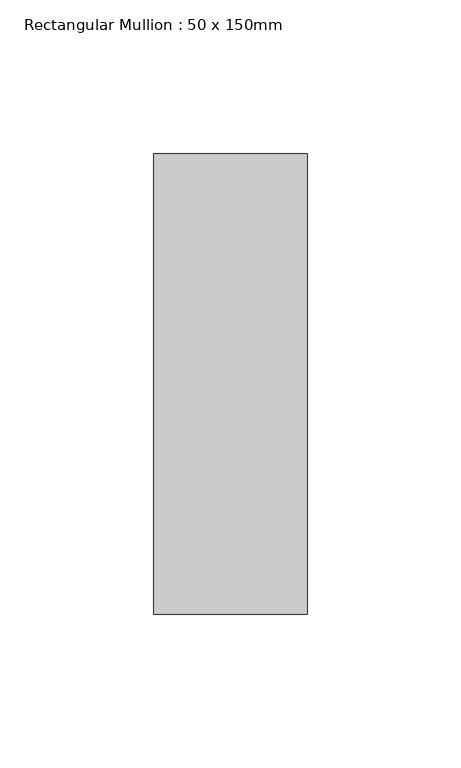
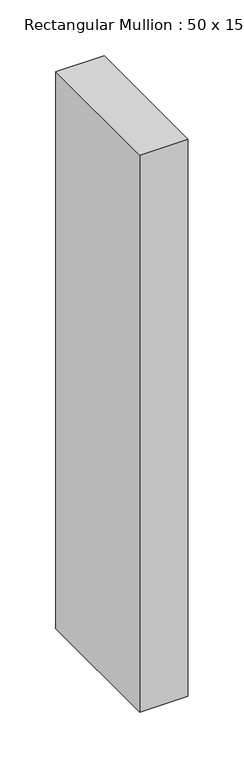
"""IFC4 building model written with IfcOpenShell, lengths in millimetres: member geometry, Rectangular Mullion : 50 x 150mm."""

from ifc_helpers import new_model, si_unit, frame, origin, place, context, project, spatial, polyline, outline, extrude, source, transform, mapped, element, save


def rectangular_mullion_50_x_150mm_c032485d(model_context):
    return source(origin(), model_context, "Body", "SweptSolid", [
        extrude(outline(polyline([(0.0, 75.0), (0.0, -75.0), (-50.0, -75.0), (-50.0, 75.0), (0.0, 75.0)])), frame((0.0, 0.0, -609.1666669), z_axis=(0.0, 0.0, 1.0), x_axis=(1.0, 0.0, 0.0)), (0.0, 0.0, 1.0), 609.1666669),
    ])


if __name__ == "__main__":
    model = new_model("IFC4")
    model_context = context("Model", 3, world=origin())
    ifc_project = project(units=[si_unit("LENGTHUNIT", "METRE", prefix="MILLI")], contexts=[model_context])
    site = spatial("IfcSite", under=ifc_project)
    building = spatial("IfcBuilding", under=site)
    placement = place(None, origin())
    rectangular_mullion_50_x_150mm_shape = rectangular_mullion_50_x_150mm_c032485d(model_context)
    element("IfcMember", 1, ObjectType="Rectangular Mullion : 50 x 150mm", at=placement, inside=building, context=model_context, shape_type="MappedRepresentation", body=[
        mapped(rectangular_mullion_50_x_150mm_shape, transform((0.0, 0.0, 0.0), x_axis=(1.0, 0.0, 0.0), y_axis=(0.0, 1.0, 0.0), z_axis=(0.0, 0.0, 1.0))),
    ])
    save(model, "model.ifc")
